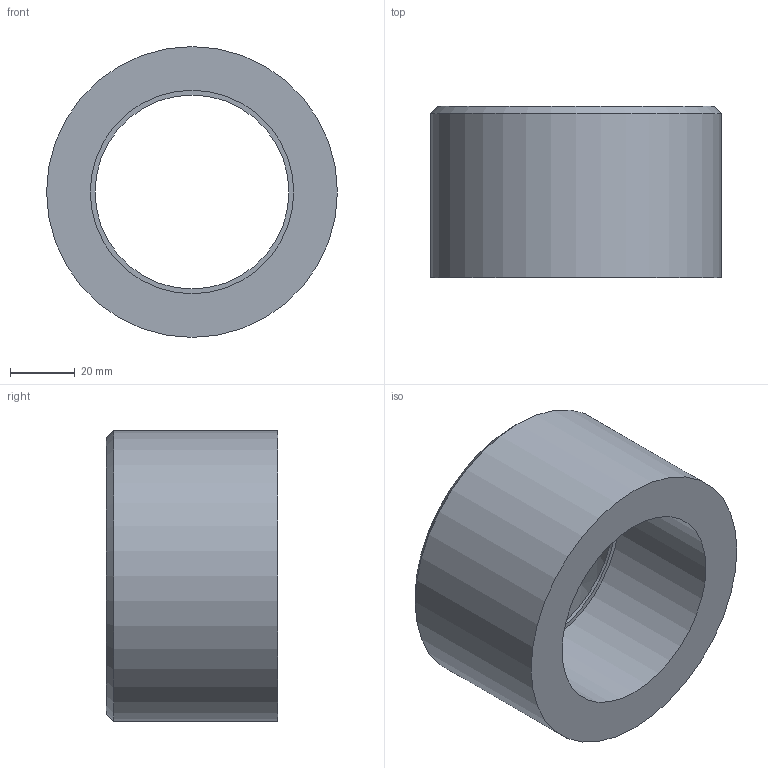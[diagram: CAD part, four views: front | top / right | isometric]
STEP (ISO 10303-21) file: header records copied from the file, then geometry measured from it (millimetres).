
FILE_DESCRIPTION(/* description */ ('PVC riduzione corta incollaggio metrica'),/* implementation_level */ '2;1');
FILE_NAME(/* name */ 'C:\Users\POLYPIPE\Desktop\DATASET INVENTOR\LIBRERIA EFFAST\RACCORDI 3DxWEB\RDR\3D_RDRRCD\3D_RDRRCD090G.stp',/* time_stamp */ '2018-01-19T15:32:28+01:00',/* author */ ('POLYPIPE'),/* organization */ ('Polypipe Italia s.r.l.'),/* preprocessor_version */ 'ST-DEVELOPER v16.1',/* originating_system */ 'Autodesk Inventor 2016',/* authorisation */ '');
FILE_SCHEMA (('CONFIG_CONTROL_DESIGN'));
Length unit declared in the file: millimetre
Products named in the file (1): 3D_RDRRCD
Bounding box: 90 x 53 x 90 mm (x, y, z)
Volume: 163717.4 mm3; surface area: 31099.5 mm2
Topology: 1 solids, 1 shells, 8 faces, 13 edges, 8 vertices
Faces by surface type: plane 3, cylinder 3, cone 2
Full cylindrical faces by diameter (mm): 60 x1, 63 x1, 90 x1
Entity records: 192 total; most frequent: DIRECTION 34, CARTESIAN_POINT 25, AXIS2_PLACEMENT_3D 17, EDGE_LOOP 16, ORIENTED_EDGE 16, FACE_BOUND 8, FACE_OUTER_BOUND 8, CIRCLE 8
